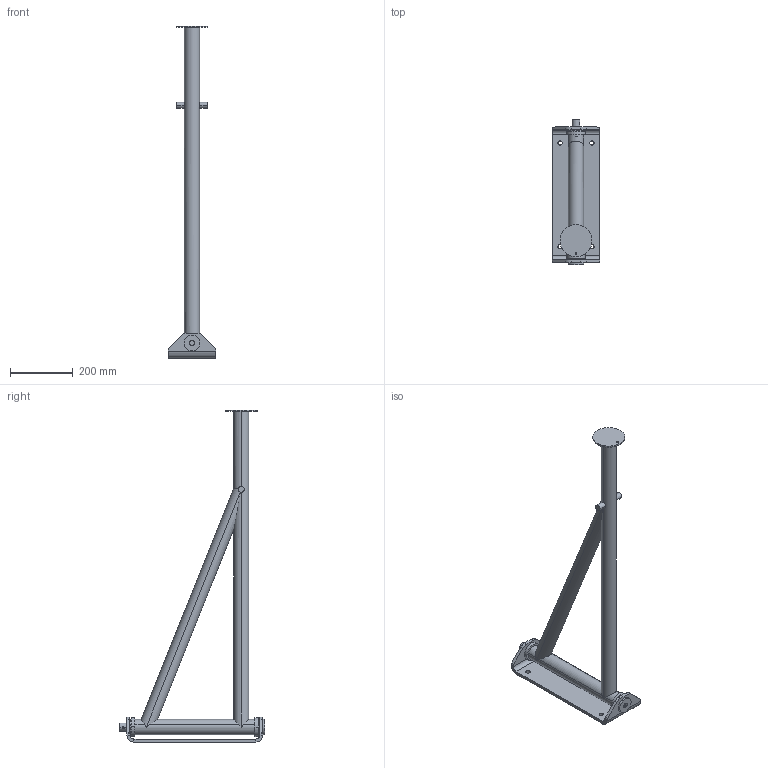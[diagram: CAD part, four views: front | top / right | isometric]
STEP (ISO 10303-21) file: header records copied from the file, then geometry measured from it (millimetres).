
FILE_DESCRIPTION (( 'STEP AP214' ), '1' );
FILE_NAME ('OBH-230-1-WALL.STEP', '2023-02-10T15:42:42', ( '' ), ( '' ), 'SwSTEP 2.0', 'SolidWorks 2021', '' );
FILE_SCHEMA (( 'AUTOMOTIVE_DESIGN' ));
Length unit declared in the file: inch
Products named in the file (13): McMaster PN 2879T12; OBH-2307; OBH-230-1-WALL; OBH-2304; OBH-2308; OBH-2301; OBH-230-3; OBH-2302; OBH-230-1; OBH-23012; OBH-2303; OBH-23011; OBH-3301
Assembly tree (15 placements, depth 3):
  OBH-230-1-WALL
    OBH-230-1
      OBH-2301
      OBH-2302
      OBH-2303  x2
      OBH-2304
      OBH-23011
      OBH-23012  x2
    McMaster PN 2879T12  x2
    OBH-230-3
      OBH-2308
      OBH-2307
    OBH-3301
Bounding box: 152.4 x 462.92 x 1055.69 mm (x, y, z)
Volume: 2200111.4 mm3; surface area: 860197.1 mm2
Topology: 13 solids, 13 shells, 124 faces, 274 edges, 176 vertices
Faces by surface type: cylinder 78, plane 46
Entity records: 4131 total; most frequent: CARTESIAN_POINT 1074, DIRECTION 576, ORIENTED_EDGE 476, EDGE_CURVE 238, AXIS2_PLACEMENT_3D 233, VERTEX_POINT 152, EDGE_LOOP 132, LINE 110
